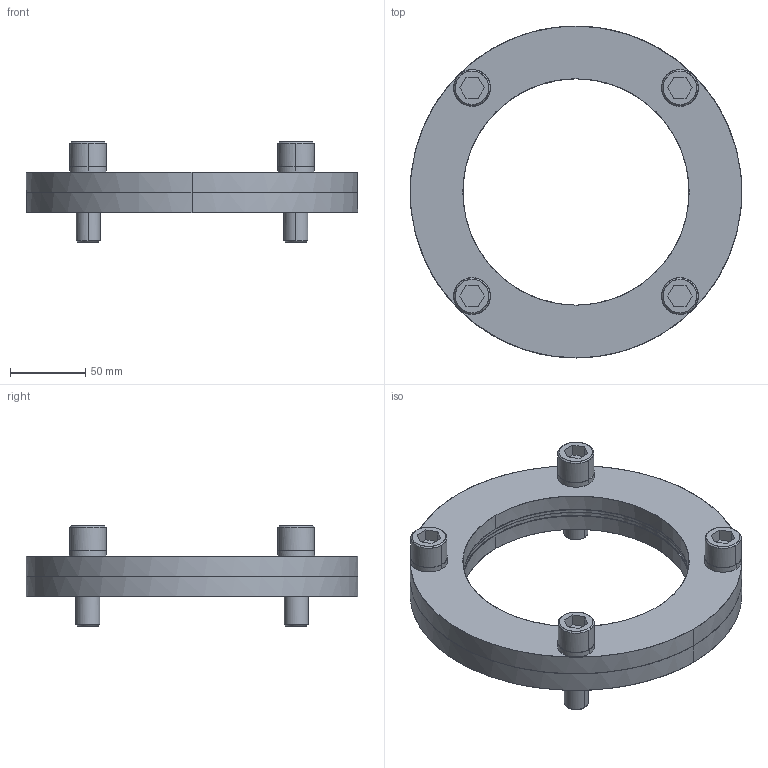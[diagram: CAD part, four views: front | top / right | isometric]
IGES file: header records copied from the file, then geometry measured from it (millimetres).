
Global section: file name: E:\UnigraphicsGraphicData\MISUMI_PRESS-PARTS\IGES\3d_kf150_04238_r00.igs; native system: NX V5.0; preprocessor: UGS NX IGES V5.0; author: MISUMI; date: 20110105.161126; units: millimetre
Bounding box: 220 x 220 x 66.5 mm (x, y, z)
Surface area: 138627.9 mm2 (no closed solid volume)
Topology: 0 solids, 0 shells, 130 faces, 1024 edges, 1024 vertices
Faces by surface type: bspline 130
